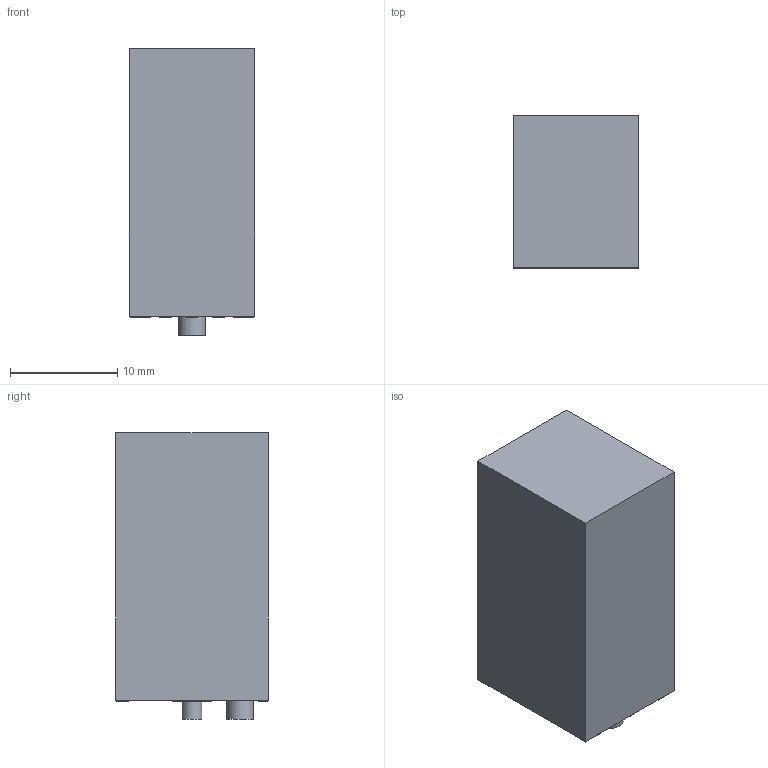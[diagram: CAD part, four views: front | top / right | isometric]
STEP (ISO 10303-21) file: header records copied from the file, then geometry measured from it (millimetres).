
FILE_DESCRIPTION(('FreeCAD Model'),'2;1');
FILE_NAME('/var/www/3D/0T/18303872.2.12.stp','2023-07-03T08:24:12',( 'Author'),(''),'Open CASCADE STEP processor 6.9','FreeCAD','Unknown' );
FILE_SCHEMA(('AUTOMOTIVE_DESIGN { 1 0 10303 214 1 1 1 1 }'));
Length unit declared in the file: millimetre
Products named in the file (4): ASSEMBLY; Body; Pins; Lugs
Assembly tree (3 placements, depth 2):
  ASSEMBLY
    Body
    Pins
    Lugs
Bounding box: 11.7 x 14.2 x 26.8 mm (x, y, z)
Volume: 4168.9 mm3; surface area: 1708.6 mm2
Topology: 14 solids, 14 shells, 78 faces, 150 edges, 100 vertices
Faces by surface type: plane 76, cylinder 2
Full cylindrical faces by diameter (mm): 1.85 x1, 2.49 x1
Entity records: 4057 total; most frequent: CARTESIAN_POINT 632, DIRECTION 618, LINE 442, VECTOR 442, ORIENTED_EDGE 300, PCURVE 300, DEFINITIONAL_REPRESENTATION 300, EDGE_CURVE 150
